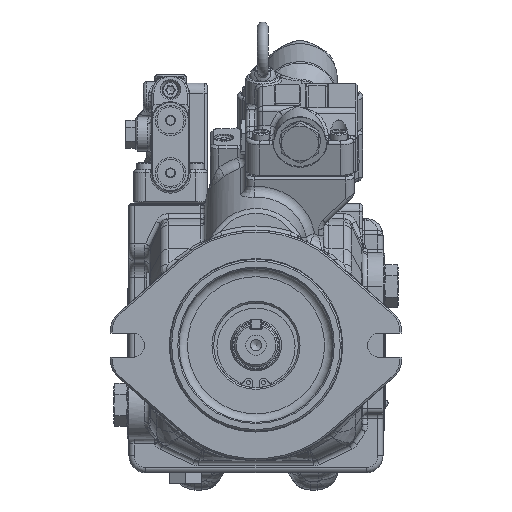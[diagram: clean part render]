
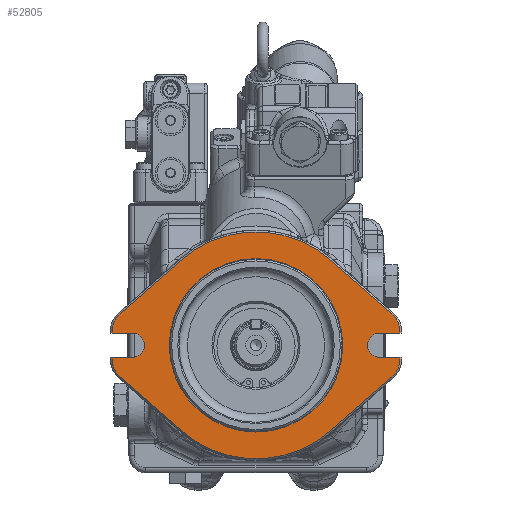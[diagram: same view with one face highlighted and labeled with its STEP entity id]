
A CAD part, top view. The second image highlights one B-rep face of the part: STEP entity #52805.
In plain terms, the highlighted planar face has unit normal (0, 0, 1).
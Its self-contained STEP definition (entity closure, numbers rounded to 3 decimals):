
#3080=FACE_BOUND('',#17487,.T.);
#4344=LINE('',#83550,#8405);
#4362=LINE('',#83609,#8423);
#4378=LINE('',#83647,#8439);
#4382=LINE('',#83655,#8443);
#4386=LINE('',#83670,#8447);
#4401=LINE('',#83699,#8462);
#4402=LINE('',#83702,#8463);
#4425=LINE('',#83912,#8486);
#4426=LINE('',#83916,#8487);
#4427=LINE('',#83920,#8488);
#4428=LINE('',#83925,#8489);
#4429=LINE('',#83929,#8490);
#8405=VECTOR('',#64220,10.);
#8423=VECTOR('',#64274,10.);
#8439=VECTOR('',#64306,10.);
#8443=VECTOR('',#64312,10.);
#8447=VECTOR('',#64326,10.);
#8462=VECTOR('',#64355,10.);
#8463=VECTOR('',#64358,10.);
#8486=VECTOR('',#64459,10.);
#8487=VECTOR('',#64462,10.);
#8488=VECTOR('',#64465,10.);
#8489=VECTOR('',#64470,10.);
#8490=VECTOR('',#64473,10.);
#12218=PLANE('',#56819);
#14137=FACE_OUTER_BOUND('',#17486,.T.);
#17486=EDGE_LOOP('',(#39353,#39354,#39355,#39356,#39357,#39358,#39359,#39360,
#39361,#39362,#39363,#39364,#39365,#39366,#39367,#39368,#39369,#39370,#39371,
#39372));
#17487=EDGE_LOOP('',(#39373));
#20854=CIRCLE('',#56742,7.15);
#20861=CIRCLE('',#56760,7.15);
#20886=CIRCLE('',#56817,51.2);
#20888=CIRCLE('',#56820,14.);
#20889=CIRCLE('',#56821,67.);
#20890=CIRCLE('',#56822,14.);
#20891=CIRCLE('',#56823,14.);
#20892=CIRCLE('',#56824,67.);
#20893=CIRCLE('',#56825,14.);
#23706=VERTEX_POINT('',#83547);
#23707=VERTEX_POINT('',#83549);
#23709=VERTEX_POINT('',#83555);
#23729=VERTEX_POINT('',#83606);
#23730=VERTEX_POINT('',#83608);
#23732=VERTEX_POINT('',#83614);
#23744=VERTEX_POINT('',#83645);
#23747=VERTEX_POINT('',#83653);
#23753=VERTEX_POINT('',#83669);
#23760=VERTEX_POINT('',#83697);
#23761=VERTEX_POINT('',#83701);
#23807=VERTEX_POINT('',#83907);
#23808=VERTEX_POINT('',#83911);
#23809=VERTEX_POINT('',#83913);
#23810=VERTEX_POINT('',#83915);
#23811=VERTEX_POINT('',#83917);
#23812=VERTEX_POINT('',#83919);
#23813=VERTEX_POINT('',#83922);
#23814=VERTEX_POINT('',#83924);
#23815=VERTEX_POINT('',#83926);
#23816=VERTEX_POINT('',#83928);
#29373=EDGE_CURVE('',#23707,#23706,#4344,.T.);
#29377=EDGE_CURVE('',#23706,#23709,#20854,.T.);
#29402=EDGE_CURVE('',#23730,#23729,#4362,.T.);
#29406=EDGE_CURVE('',#23729,#23732,#20861,.T.);
#29421=EDGE_CURVE('',#23732,#23744,#4378,.T.);
#29425=EDGE_CURVE('',#23709,#23747,#4382,.T.);
#29432=EDGE_CURVE('',#23730,#23753,#4386,.T.);
#29447=EDGE_CURVE('',#23760,#23747,#4401,.T.);
#29448=EDGE_CURVE('',#23707,#23761,#4402,.T.);
#29504=EDGE_CURVE('',#23807,#23807,#20886,.T.);
#29506=EDGE_CURVE('',#23808,#23744,#4425,.T.);
#29507=EDGE_CURVE('',#23809,#23808,#20888,.T.);
#29508=EDGE_CURVE('',#23810,#23809,#4426,.T.);
#29509=EDGE_CURVE('',#23811,#23810,#20889,.T.);
#29510=EDGE_CURVE('',#23812,#23811,#4427,.T.);
#29511=EDGE_CURVE('',#23761,#23812,#20890,.T.);
#29512=EDGE_CURVE('',#23813,#23760,#20891,.T.);
#29513=EDGE_CURVE('',#23814,#23813,#4428,.T.);
#29514=EDGE_CURVE('',#23815,#23814,#20892,.T.);
#29515=EDGE_CURVE('',#23816,#23815,#4429,.T.);
#29516=EDGE_CURVE('',#23753,#23816,#20893,.T.);
#39353=ORIENTED_EDGE('',*,*,#29421,.T.);
#39354=ORIENTED_EDGE('',*,*,#29506,.F.);
#39355=ORIENTED_EDGE('',*,*,#29507,.F.);
#39356=ORIENTED_EDGE('',*,*,#29508,.F.);
#39357=ORIENTED_EDGE('',*,*,#29509,.F.);
#39358=ORIENTED_EDGE('',*,*,#29510,.F.);
#39359=ORIENTED_EDGE('',*,*,#29511,.F.);
#39360=ORIENTED_EDGE('',*,*,#29448,.F.);
#39361=ORIENTED_EDGE('',*,*,#29373,.T.);
#39362=ORIENTED_EDGE('',*,*,#29377,.T.);
#39363=ORIENTED_EDGE('',*,*,#29425,.T.);
#39364=ORIENTED_EDGE('',*,*,#29447,.F.);
#39365=ORIENTED_EDGE('',*,*,#29512,.F.);
#39366=ORIENTED_EDGE('',*,*,#29513,.F.);
#39367=ORIENTED_EDGE('',*,*,#29514,.F.);
#39368=ORIENTED_EDGE('',*,*,#29515,.F.);
#39369=ORIENTED_EDGE('',*,*,#29516,.F.);
#39370=ORIENTED_EDGE('',*,*,#29432,.F.);
#39371=ORIENTED_EDGE('',*,*,#29402,.T.);
#39372=ORIENTED_EDGE('',*,*,#29406,.T.);
#39373=ORIENTED_EDGE('',*,*,#29504,.F.);
#52805=ADVANCED_FACE('',(#14137,#3080),#12218,.F.);
#56742=AXIS2_PLACEMENT_3D('',#83557,#64226,#64227);
#56760=AXIS2_PLACEMENT_3D('',#83616,#64280,#64281);
#56817=AXIS2_PLACEMENT_3D('',#83908,#64453,#64454);
#56819=AXIS2_PLACEMENT_3D('',#83910,#64457,#64458);
#56820=AXIS2_PLACEMENT_3D('',#83914,#64460,#64461);
#56821=AXIS2_PLACEMENT_3D('',#83918,#64463,#64464);
#56822=AXIS2_PLACEMENT_3D('',#83921,#64466,#64467);
#56823=AXIS2_PLACEMENT_3D('',#83923,#64468,#64469);
#56824=AXIS2_PLACEMENT_3D('',#83927,#64471,#64472);
#56825=AXIS2_PLACEMENT_3D('',#83930,#64474,#64475);
#64220=DIRECTION('',(1.,0.,0.));
#64226=DIRECTION('center_axis',(0.,0.,-1.));
#64227=DIRECTION('ref_axis',(0.,-1.,0.));
#64274=DIRECTION('',(-1.,0.,0.));
#64280=DIRECTION('center_axis',(0.,0.,-1.));
#64281=DIRECTION('ref_axis',(0.,1.,0.));
#64306=DIRECTION('',(1.,0.,0.));
#64312=DIRECTION('',(-1.,0.,0.));
#64326=DIRECTION('',(0.,-1.,0.));
#64355=DIRECTION('',(0.,1.,0.));
#64358=DIRECTION('',(0.,1.,0.));
#64453=DIRECTION('center_axis',(0.,0.,1.));
#64454=DIRECTION('ref_axis',(0.,-1.,0.));
#64457=DIRECTION('center_axis',(0.,0.,-1.));
#64458=DIRECTION('ref_axis',(0.,1.,0.));
#64459=DIRECTION('',(0.,-1.,0.));
#64460=DIRECTION('center_axis',(0.,0.,-1.));
#64461=DIRECTION('ref_axis',(0.911,0.413,0.));
#64462=DIRECTION('',(0.752,-0.66,0.));
#64463=DIRECTION('center_axis',(0.,0.,-1.));
#64464=DIRECTION('ref_axis',(0.,1.,0.));
#64465=DIRECTION('',(0.752,0.66,0.));
#64466=DIRECTION('center_axis',(0.,0.,-1.));
#64467=DIRECTION('ref_axis',(-0.911,0.413,0.));
#64468=DIRECTION('center_axis',(0.,0.,-1.));
#64469=DIRECTION('ref_axis',(-0.911,-0.413,0.));
#64470=DIRECTION('',(-0.752,0.66,0.));
#64471=DIRECTION('center_axis',(0.,0.,-1.));
#64472=DIRECTION('ref_axis',(0.,-1.,0.));
#64473=DIRECTION('',(-0.752,-0.66,0.));
#64474=DIRECTION('center_axis',(0.,0.,-1.));
#64475=DIRECTION('ref_axis',(0.911,-0.413,0.));
#83547=CARTESIAN_POINT('',(-111.542,12.033,121.756));
#83549=CARTESIAN_POINT('',(-123.542,12.033,121.756));
#83550=CARTESIAN_POINT('',(-75.042,12.033,121.756));
#83555=CARTESIAN_POINT('',(-111.542,-2.267,121.756));
#83557=CARTESIAN_POINT('Origin',(-111.542,4.883,121.756));
#83606=CARTESIAN_POINT('',(34.458,-2.267,121.756));
#83608=CARTESIAN_POINT('',(46.458,-2.267,121.756));
#83609=CARTESIAN_POINT('',(-2.042,-2.267,121.756));
#83614=CARTESIAN_POINT('',(34.458,12.033,121.756));
#83616=CARTESIAN_POINT('Origin',(34.458,4.883,121.756));
#83645=CARTESIAN_POINT('',(46.458,12.033,121.756));
#83647=CARTESIAN_POINT('',(21.157,12.033,121.756));
#83653=CARTESIAN_POINT('',(-123.542,-2.267,121.756));
#83655=CARTESIAN_POINT('',(-90.344,-2.267,121.756));
#83669=CARTESIAN_POINT('',(46.458,-3.324,121.756));
#83670=CARTESIAN_POINT('',(46.458,61.674,121.756));
#83697=CARTESIAN_POINT('',(-123.542,-3.324,121.756));
#83699=CARTESIAN_POINT('',(-123.542,69.174,121.756));
#83701=CARTESIAN_POINT('',(-123.542,13.09,121.756));
#83702=CARTESIAN_POINT('',(-123.542,69.174,121.756));
#83907=CARTESIAN_POINT('',(-38.542,56.083,121.756));
#83908=CARTESIAN_POINT('Origin',(-38.542,4.883,121.756));
#83910=CARTESIAN_POINT('Origin',(-38.542,95.464,121.756));
#83911=CARTESIAN_POINT('',(46.458,13.09,121.756));
#83912=CARTESIAN_POINT('',(46.458,61.674,121.756));
#83913=CARTESIAN_POINT('',(41.693,23.612,121.756));
#83914=CARTESIAN_POINT('Origin',(32.458,13.09,121.756));
#83915=CARTESIAN_POINT('',(5.652,55.241,121.756));
#83916=CARTESIAN_POINT('',(-14.076,72.554,121.756));
#83917=CARTESIAN_POINT('',(-82.735,55.241,121.756));
#83918=CARTESIAN_POINT('Origin',(-38.542,4.883,121.756));
#83919=CARTESIAN_POINT('',(-118.776,23.612,121.756));
#83920=CARTESIAN_POINT('',(-52.721,81.581,121.756));
#83921=CARTESIAN_POINT('Origin',(-109.542,13.09,121.756));
#83922=CARTESIAN_POINT('',(-118.776,-13.846,121.756));
#83923=CARTESIAN_POINT('Origin',(-109.542,-3.324,121.756));
#83924=CARTESIAN_POINT('',(-82.735,-45.475,121.756));
#83925=CARTESIAN_POINT('',(-123.036,-10.108,121.756));
#83926=CARTESIAN_POINT('',(5.652,-45.475,121.756));
#83927=CARTESIAN_POINT('Origin',(-38.542,4.883,121.756));
#83928=CARTESIAN_POINT('',(41.693,-13.846,121.756));
#83929=CARTESIAN_POINT('',(35.666,-19.135,121.756));
#83930=CARTESIAN_POINT('Origin',(32.458,-3.324,121.756));
